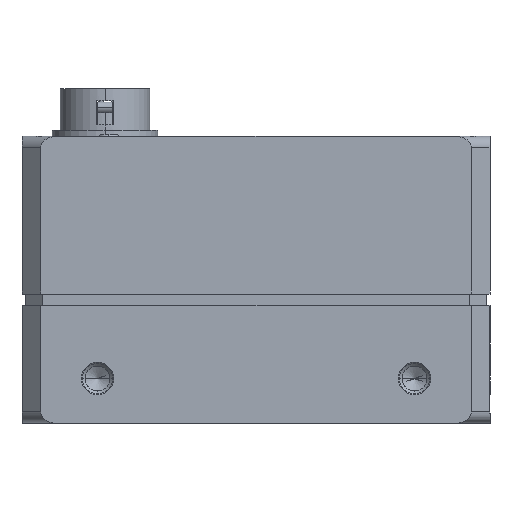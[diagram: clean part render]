
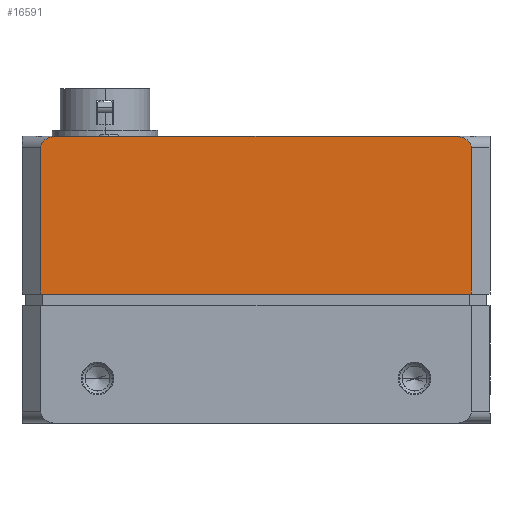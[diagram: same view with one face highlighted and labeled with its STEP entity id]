
A CAD part, left-side view. The second image highlights one B-rep face of the part: STEP entity #16591.
In plain terms, the highlighted planar face has unit normal (-1, 0, 0).
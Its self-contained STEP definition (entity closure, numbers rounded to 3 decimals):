
#597=DIRECTION('',(0.,-1.,0.));
#598=VECTOR('',#597,57.);
#599=CARTESIAN_POINT('',(-31.,28.5,5.6));
#600=LINE('',#599,#598);
#649=CARTESIAN_POINT('',(-31.,28.5,25.));
#650=CARTESIAN_POINT('',(-31.,28.5,25.151));
#651=CARTESIAN_POINT('',(-31.,28.443,25.395));
#652=CARTESIAN_POINT('',(-31.,28.226,25.782));
#653=CARTESIAN_POINT('',(-31.,27.826,26.137));
#654=CARTESIAN_POINT('',(-31.,27.2,26.416));
#655=CARTESIAN_POINT('',(-31.,26.68,26.5));
#656=CARTESIAN_POINT('',(-31.,26.379,26.5));
#658=CARTESIAN_POINT('',(-31.,-28.5,25.));
#659=CARTESIAN_POINT('',(-31.,-28.5,25.151));
#660=CARTESIAN_POINT('',(-31.,-28.443,25.395));
#661=CARTESIAN_POINT('',(-31.,-28.226,25.782));
#662=CARTESIAN_POINT('',(-31.,-27.826,26.137));
#663=CARTESIAN_POINT('',(-31.,-27.2,26.416));
#664=CARTESIAN_POINT('',(-31.,-26.68,26.5));
#665=CARTESIAN_POINT('',(-31.,-26.379,26.5));
#721=DIRECTION('',(0.,1.,0.));
#722=VECTOR('',#721,52.757);
#723=CARTESIAN_POINT('',(-31.,-26.379,26.5));
#724=LINE('',#723,#722);
#2641=DIRECTION('',(0.,0.,-1.));
#2642=VECTOR('',#2641,19.4);
#2643=CARTESIAN_POINT('',(-31.,28.5,25.));
#2644=LINE('',#2643,#2642);
#2715=DIRECTION('',(0.,0.,1.));
#2716=VECTOR('',#2715,19.4);
#2717=CARTESIAN_POINT('',(-31.,-28.5,5.6));
#2718=LINE('',#2717,#2716);
#14694=CARTESIAN_POINT('',(-31.,-28.5,5.6));
#14695=CARTESIAN_POINT('',(-31.,-28.5,25.));
#14696=VERTEX_POINT('',#14694);
#14697=VERTEX_POINT('',#14695);
#14698=CARTESIAN_POINT('',(-31.,-26.379,26.5));
#14699=CARTESIAN_POINT('',(-31.,26.379,26.5));
#14700=VERTEX_POINT('',#14698);
#14701=VERTEX_POINT('',#14699);
#14823=CARTESIAN_POINT('',(-31.,28.5,5.6));
#14824=VERTEX_POINT('',#14823);
#14910=VERTEX_POINT('',#649);
#16573=CARTESIAN_POINT('',(-31.,0.,16.05));
#16574=DIRECTION('',(1.,0.,0.));
#16575=DIRECTION('',(0.,-1.,0.));
#16576=AXIS2_PLACEMENT_3D('',#16573,#16574,#16575);
#16577=PLANE('',#16576);
#16579=ORIENTED_EDGE('',*,*,#16578,.F.);
#16581=ORIENTED_EDGE('',*,*,#16580,.F.);
#16582=ORIENTED_EDGE('',*,*,#16544,.F.);
#16584=ORIENTED_EDGE('',*,*,#16583,.F.);
#16586=ORIENTED_EDGE('',*,*,#16585,.T.);
#16588=ORIENTED_EDGE('',*,*,#16587,.F.);
#16589=EDGE_LOOP('',(#16579,#16581,#16582,#16584,#16586,#16588));
#16590=FACE_OUTER_BOUND('',#16589,.F.);
#16591=ADVANCED_FACE('',(#16590),#16577,.F.);
#657=B_SPLINE_CURVE_WITH_KNOTS('',3,(#649,#650,#651,#652,#653,#654,#655,#656),
.UNSPECIFIED.,.F.,.F.,(4,1,1,1,1,4),(0.,0.125,0.25,0.5,0.75,1.),
.UNSPECIFIED.);
#666=B_SPLINE_CURVE_WITH_KNOTS('',3,(#658,#659,#660,#661,#662,#663,#664,#665),
.UNSPECIFIED.,.F.,.F.,(4,1,1,1,1,4),(0.,0.125,0.25,0.5,0.75,1.),
.UNSPECIFIED.);
#16544=EDGE_CURVE('',#14824,#14696,#600,.T.);
#16578=EDGE_CURVE('',#14697,#14700,#666,.T.);
#16580=EDGE_CURVE('',#14696,#14697,#2718,.T.);
#16583=EDGE_CURVE('',#14910,#14824,#2644,.T.);
#16585=EDGE_CURVE('',#14910,#14701,#657,.T.);
#16587=EDGE_CURVE('',#14700,#14701,#724,.T.);
